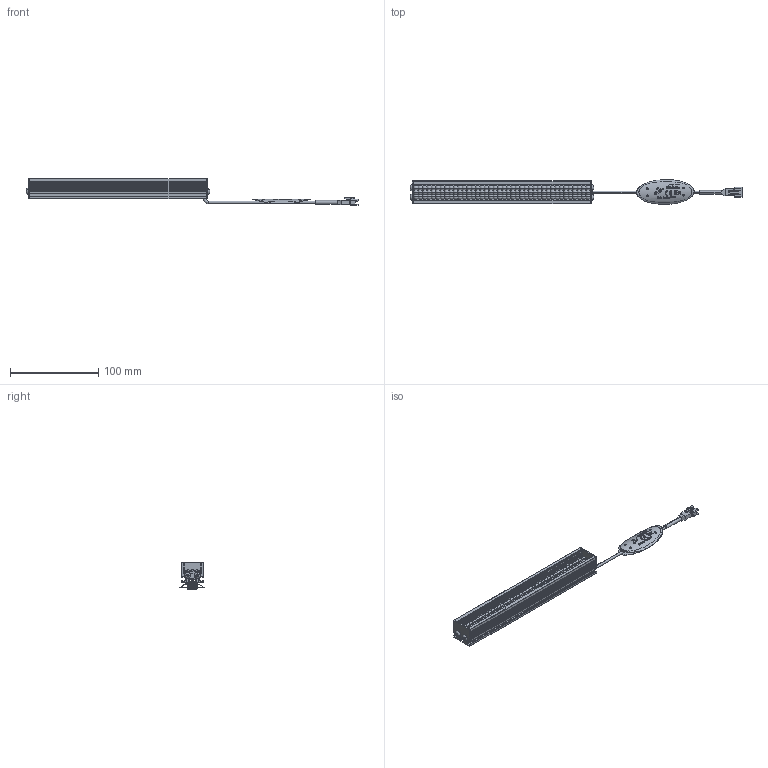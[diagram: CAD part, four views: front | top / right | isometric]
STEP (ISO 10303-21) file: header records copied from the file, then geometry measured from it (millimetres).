
FILE_DESCRIPTION(('STEP AP214'),'1');
FILE_NAME('VBA-20015_DRAWING_3D.step','2023-09-14T00:58:14',(' '),(' '),'Spatial InterOp 3D',' ',' ');
FILE_SCHEMA(('AUTOMOTIVE_DESIGN { 1 0 10303 214 1 1 1 1 }'));
Length unit declared in the file: millimetre
Products named in the file (7): BASE; SIDE PLATE; MXB8146; 3P; CABEL TAG (VS).stp; LED LENS
Assembly tree (13 placements, depth 2):
  (unnamed)
    BASE
    SIDE PLATE  x2
    MXB8146  x4
    3P
    CABEL TAG (VS).stp
    LED LENS  x4
Bounding box: 376 x 28 x 30.5 mm (x, y, z)
Volume: 62682.5 mm3; surface area: 68429.7 mm2
Topology: 14 solids, 14 shells, 1307 faces, 4034 edges, 2811 vertices
Faces by surface type: plane 619, cylinder 428, sphere 240, torus 14, bspline 6
Entity records: 37382 total; most frequent: CARTESIAN_POINT 8809, ORIENTED_EDGE 4924, DIRECTION 4440, EDGE_CURVE 2462, VERTEX_POINT 1760, AXIS2_PLACEMENT_3D 1557, LINE 1326, VECTOR 1326
